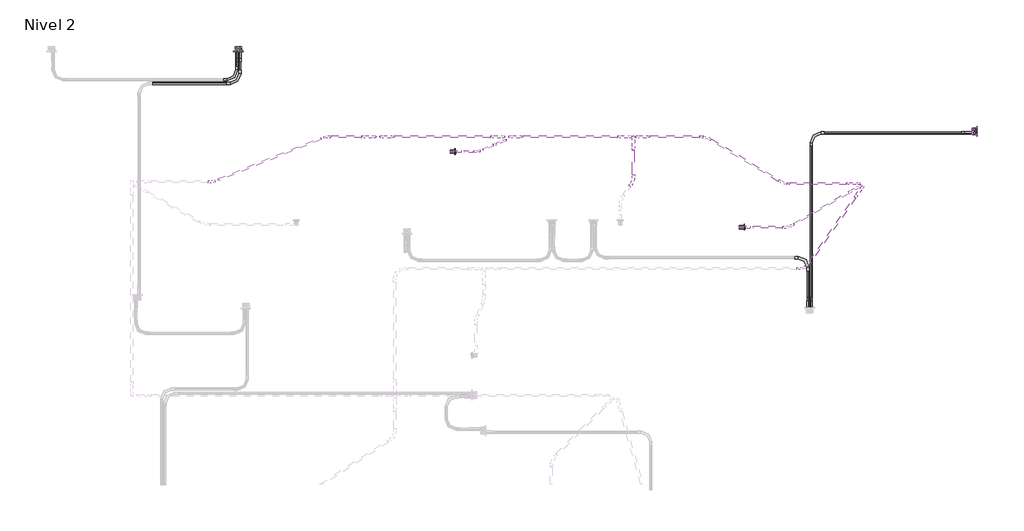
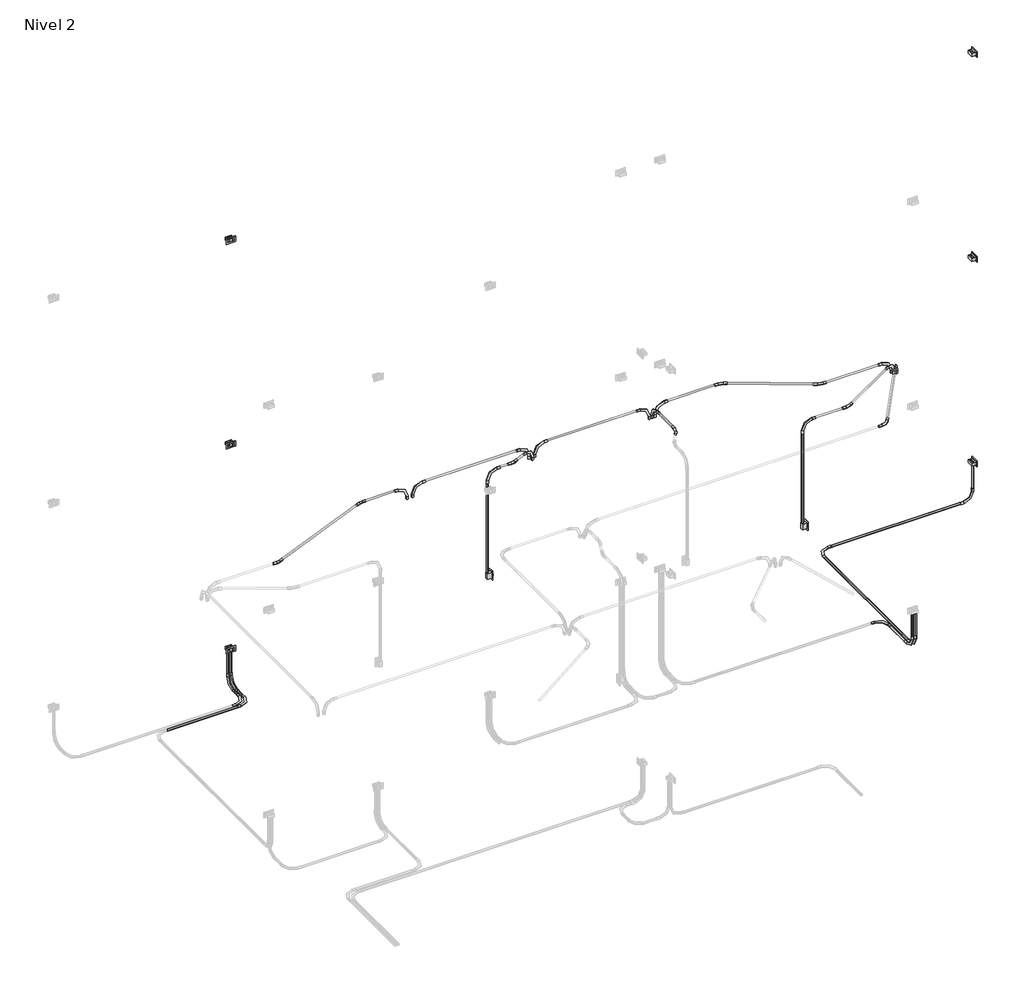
# One storey, part 10 of 10: 30 cable carrier fittings, 26 cable carrier segments, 6 proxies, 2 switching devices.
"""IFC4 building model written with IfcOpenShell, lengths in millimetres."""

from ifc_helpers import new_model, si_unit, point, frame, frame_2d, origin, place, context, project, spatial, circle_curve, trimmed, segment, composite_curve, outline, extrude, transform, mapped, element, save
from components import gfci_180f1b41, m_codo_de_tubo_extremo_liso_pvc_9da73e12, m_codo_de_tubo_extremo_liso_pvc_102f0f41, m_codo_de_tubo_extremo_liso_pvc_83c0c0e9, m_codo_de_tubo_extremo_liso_pvc_1ce4db88, m_codo_de_tubo_extremo_liso_pvc_e924b1dc, m_codo_de_tubo_extremo_liso_pvc_b7793a26, m_codo_de_tubo_extremo_liso_pvc_59586aee, m_codo_de_tubo_extremo_liso_pvc_e6ab1ad8, switching_device_22fed34b

model = new_model("IFC4")

# Units and contexts
model_context = context("Model", 3, world=origin())
ifc_project = project(units=[si_unit("LENGTHUNIT", "METRE", prefix="MILLI")], contexts=[model_context])

# Site, building, storey
site = spatial("IfcSite", under=ifc_project)
building = spatial("IfcBuilding", under=site)
storey = spatial("IfcBuildingStorey", under=building, Name="Nivel 2", Elevation=2800.0)

# Proxies
placement = place(None, origin())
gfci_shape = gfci_180f1b41(model_context)
element("IfcBuildingElementProxy", 1, Name="Tomacorriente doble 220V : GFCI", ObjectType="Tomacorriente doble 220V : GFCI", at=placement, inside=storey, context=model_context, shape_type="MappedRepresentation", body=[
    mapped(gfci_shape, transform((589.5234859, 17515.0, 3200.0), x_axis=(0.0, 0.0, 1.0), y_axis=(-1.0, 0.0, 0.0), z_axis=(0.0, -1.0, 0.0))),
])
element("IfcBuildingElementProxy", 2, Name="Tomacorriente doble 220V : GFCI", ObjectType="Tomacorriente doble 220V : GFCI", at=placement, inside=storey, context=model_context, shape_type="MappedRepresentation", body=[
    mapped(gfci_shape, transform((9150.0, 16584.596379, 3200.0), x_axis=(0.0, 0.0, 1.0), y_axis=(0.0, -1.0, 0.0), z_axis=(1.0, 0.0, 0.0))),
])
element("IfcBuildingElementProxy", 3, Name="Tomacorriente doble 220V : GFCI", ObjectType="Tomacorriente doble 220V : GFCI", at=placement, inside=storey, context=model_context, shape_type="MappedRepresentation", body=[
    mapped(gfci_shape, transform((589.5234859, 17515.0, 5850.0), x_axis=(0.0, 0.0, 1.0), y_axis=(-1.0, 0.0, 0.0), z_axis=(0.0, -1.0, 0.0))),
])
element("IfcBuildingElementProxy", 4, Name="Tomacorriente doble 220V : GFCI", ObjectType="Tomacorriente doble 220V : GFCI", at=placement, inside=storey, context=model_context, shape_type="MappedRepresentation", body=[
    mapped(gfci_shape, transform((9150.0, 16584.596379, 5850.0), x_axis=(0.0, 0.0, 1.0), y_axis=(0.0, -1.0, 0.0), z_axis=(1.0, 0.0, 0.0))),
])
element("IfcBuildingElementProxy", 5, Name="Tomacorriente doble 220V : GFCI", ObjectType="Tomacorriente doble 220V : GFCI", at=placement, inside=storey, context=model_context, shape_type="MappedRepresentation", body=[
    mapped(gfci_shape, transform((589.5234859, 17515.0, 8500.0), x_axis=(0.0, 0.0, 1.0), y_axis=(-1.0, 0.0, 0.0), z_axis=(0.0, -1.0, 0.0))),
])
element("IfcBuildingElementProxy", 6, Name="Tomacorriente doble 220V : GFCI", ObjectType="Tomacorriente doble 220V : GFCI", at=placement, inside=storey, context=model_context, shape_type="MappedRepresentation", body=[
    mapped(gfci_shape, transform((9150.0, 16584.596379, 8500.0), x_axis=(0.0, 0.0, 1.0), y_axis=(0.0, -1.0, 0.0), z_axis=(1.0, 0.0, 0.0))),
])

# Cable carrier fittings
m_codo_de_tubo_extremo_liso_pvc_shape = m_codo_de_tubo_extremo_liso_pvc_9da73e12(model_context)
element("IfcCableCarrierFitting", 7, ObjectType="M_Codo de tubo - Extremo liso - PVC : CODO POTENCIA", at=placement, inside=storey, context=model_context, shape_type="MappedRepresentation", body=[
    mapped(m_codo_de_tubo_extremo_liso_pvc_shape, transform((571.491666, 17544.6371118, 2730.0), x_axis=(0.0, 0.0, -1.0), y_axis=(0.0, -1.0, 0.0), z_axis=(-1.0, 0.0, 0.0))),
])
element("IfcCableCarrierFitting", 8, ObjectType="M_Codo de tubo - Extremo liso - PVC : CODO POTENCIA", at=placement, inside=storey, context=model_context, shape_type="MappedRepresentation", body=[
    mapped(m_codo_de_tubo_extremo_liso_pvc_shape, transform((607.5553057, 17544.6371118, 2730.0), x_axis=(0.0, 0.0, -1.0), y_axis=(0.0, -1.0, 0.0), z_axis=(-1.0, 0.0, 0.0))),
])
element("IfcCableCarrierFitting", 9, ObjectType="M_Codo de tubo - Extremo liso - PVC : CODO POTENCIA", at=placement, inside=storey, context=model_context, shape_type="MappedRepresentation", body=[
    mapped(m_codo_de_tubo_extremo_liso_pvc_shape, transform((9120.3628882, 16566.5645592, 2730.0), x_axis=(0.0, 0.0, -1.0), y_axis=(-1.0, 0.0, 0.0), z_axis=(0.0, 1.0, 0.0))),
])
element("IfcCableCarrierFitting", 10, ObjectType="M_Codo de tubo - Extremo liso - PVC : CODO POTENCIA", at=placement, inside=storey, context=model_context, shape_type="MappedRepresentation", body=[
    mapped(m_codo_de_tubo_extremo_liso_pvc_shape, transform((7193.2733803, 14505.3628882, 2730.0), x_axis=(0.0, 0.0, -1.0), y_axis=(0.0, 1.0, 0.0), z_axis=(1.0, 0.0, 0.0))),
])
element("IfcCableCarrierFitting", 11, ObjectType="M_Codo de tubo - Extremo liso - PVC : CODO POTENCIA", at=placement, inside=storey, context=model_context, shape_type="MappedRepresentation", body=[
    mapped(m_codo_de_tubo_extremo_liso_pvc_shape, transform((7229.33702, 16566.5645592, 2730.0), x_axis=(-1.0, 0.0, 0.0), y_axis=(0.0, -1.0, 0.0), z_axis=(0.0, 0.0, 1.0))),
])
element("IfcCableCarrierFitting", 12, ObjectType="M_Codo de tubo - Extremo liso - PVC : CODO POTENCIA", at=placement, inside=storey, context=model_context, shape_type="MappedRepresentation", body=[
    mapped(m_codo_de_tubo_extremo_liso_pvc_shape, transform((7229.33702, 14505.3628882, 2730.0), x_axis=(0.0, 0.0, -1.0), y_axis=(0.0, 1.0, 0.0), z_axis=(1.0, 0.0, 0.0))),
])
element("IfcCableCarrierFitting", 13, ObjectType="M_Codo de tubo - Extremo liso - PVC : CODO POTENCIA", at=placement, inside=storey, context=model_context, shape_type="MappedRepresentation", body=[
    mapped(m_codo_de_tubo_extremo_liso_pvc_shape, transform((7193.2733803, 15120.3628882, 2730.0), x_axis=(0.0, 1.0, 0.0), y_axis=(-1.0, 0.0, 0.0), z_axis=(0.0, 0.0, 1.0))),
])
element("IfcCableCarrierFitting", 14, ObjectType="M_Codo de tubo - Extremo liso - PVC : CODO POTENCIA", at=placement, inside=storey, context=model_context, shape_type="MappedRepresentation", body=[
    mapped(m_codo_de_tubo_extremo_liso_pvc_shape, transform((607.5553057, 17141.7513363, 2730.0), x_axis=(1.0, 0.0, 0.0), y_axis=(0.0, 1.0, 0.0), z_axis=(0.0, 0.0, 1.0))),
])
element("IfcCableCarrierFitting", 15, ObjectType="M_Codo de tubo - Extremo liso - PVC : CODO POTENCIA", at=placement, inside=storey, context=model_context, shape_type="MappedRepresentation", body=[
    mapped(m_codo_de_tubo_extremo_liso_pvc_shape, transform((571.491666, 17184.6371118, 2730.0), x_axis=(1.0, 0.0, 0.0), y_axis=(0.0, 1.0, 0.0), z_axis=(0.0, 0.0, 1.0))),
])
element("IfcCableCarrierFitting", 16, ObjectType="M_Codo de tubo - Extremo liso - PVC : CODO ILUMINACION", at=placement, inside=storey, context=model_context, shape_type="MappedRepresentation", body=[
    mapped(m_codo_de_tubo_extremo_liso_pvc_shape, transform((2241.7948591, 16522.4684793, 5350.0), x_axis=(-1.0, 0.0, 0.0), y_axis=(0.0, 0.0, -1.0), z_axis=(0.0, -1.0, 0.0))),
])
element("IfcCableCarrierFitting", 17, ObjectType="M_Codo de tubo - Extremo liso - PVC : CODO ILUMINACION", at=placement, inside=storey, context=model_context, shape_type="MappedRepresentation", body=[
    mapped(m_codo_de_tubo_extremo_liso_pvc_shape, transform((3734.0151305, 16522.4684793, 5350.0), x_axis=(-1.0, 0.0, 0.0), y_axis=(0.0, 0.0, -1.0), z_axis=(0.0, -1.0, 0.0))),
])
element("IfcCableCarrierFitting", 18, ObjectType="M_Codo de tubo - Extremo liso - PVC : CODO ILUMINACION", at=placement, inside=storey, context=model_context, shape_type="MappedRepresentation", body=[
    mapped(m_codo_de_tubo_extremo_liso_pvc_shape, transform((5204.7397254, 16522.4684793, 5350.0), x_axis=(-1.0, 0.0, 0.0), y_axis=(0.0, 0.0, -1.0), z_axis=(0.0, -1.0, 0.0))),
])
element("IfcCableCarrierFitting", 19, ObjectType="M_Codo de tubo - Extremo liso - PVC : CODO ILUMINACION", at=placement, inside=storey, context=model_context, shape_type="MappedRepresentation", body=[
    mapped(m_codo_de_tubo_extremo_liso_pvc_shape, transform((3056.7668084, 16349.9044993, 5350.0), x_axis=(0.0, 0.0, 1.0), y_axis=(1.0, 0.0, 0.0), z_axis=(0.0, 1.0, 0.0))),
])
element("IfcCableCarrierFitting", 20, ObjectType="M_Codo de tubo - Extremo liso - PVC : CODO ILUMINACION", at=placement, inside=storey, context=model_context, shape_type="MappedRepresentation", body=[
    mapped(m_codo_de_tubo_extremo_liso_pvc_shape, transform((6406.8611243, 15473.3236049, 5350.0), x_axis=(0.0, 0.0, 1.0), y_axis=(1.0, 0.0, 0.0), z_axis=(0.0, 1.0, 0.0))),
])
m_codo_de_tubo_extremo_liso_pvc_2_shape = m_codo_de_tubo_extremo_liso_pvc_102f0f41(model_context)
element("IfcCableCarrierFitting", 21, ObjectType="M_Codo de tubo - Extremo liso - PVC : CODO ILUMINACION", at=placement, inside=storey, context=model_context, shape_type="MappedRepresentation", body=[
    mapped(m_codo_de_tubo_extremo_liso_pvc_2_shape, transform((2173.7645981, 16522.4684793, 5350.0), x_axis=(1.0, 0.0, 0.0), y_axis=(0.0, 0.0, 1.0), z_axis=(0.0, -1.0, 0.0))),
])
element("IfcCableCarrierFitting", 22, ObjectType="M_Codo de tubo - Extremo liso - PVC : CODO ILUMINACION", at=placement, inside=storey, context=model_context, shape_type="MappedRepresentation", body=[
    mapped(m_codo_de_tubo_extremo_liso_pvc_2_shape, transform((3665.9848695, 16522.4684793, 5350.0), x_axis=(1.0, 0.0, 0.0), y_axis=(0.0, 0.0, 1.0), z_axis=(0.0, -1.0, 0.0))),
])
element("IfcCableCarrierFitting", 23, ObjectType="M_Codo de tubo - Extremo liso - PVC : CODO ILUMINACION", at=placement, inside=storey, context=model_context, shape_type="MappedRepresentation", body=[
    mapped(m_codo_de_tubo_extremo_liso_pvc_2_shape, transform((5136.7094645, 16522.4684793, 5350.0), x_axis=(1.0, 0.0, 0.0), y_axis=(0.0, 0.0, 1.0), z_axis=(0.0, -1.0, 0.0))),
])
element("IfcCableCarrierFitting", 24, ObjectType="M_Codo de tubo - Extremo liso - PVC : CODO ILUMINACION", at=placement, inside=storey, context=model_context, shape_type="MappedRepresentation", body=[
    mapped(m_codo_de_tubo_extremo_liso_pvc_2_shape, transform((7823.8636227, 15941.494093, 5350.0), x_axis=(0.5735764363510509, 0.8191520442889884, 0.0), y_axis=(0.0, 0.0, 1.0), z_axis=(0.8191520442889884, -0.5735764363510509, 0.0))),
])
element("IfcCableCarrierFitting", 25, ObjectType="M_Codo de tubo - Extremo liso - PVC : CODO ILUMINACION", at=placement, inside=storey, context=model_context, shape_type="MappedRepresentation", body=[
    mapped(m_codo_de_tubo_extremo_liso_pvc_2_shape, transform((7785.0139117, 15979.0288692, 5350.0), x_axis=(1.0, 0.0, 0.0), y_axis=(0.0, 0.0, 1.0), z_axis=(0.0, -1.0, 0.0))),
])
element("IfcCableCarrierFitting", 26, ObjectType="M_Codo de tubo - Extremo liso - PVC : CODO ILUMINACION", at=placement, inside=storey, context=model_context, shape_type="MappedRepresentation", body=[
    mapped(m_codo_de_tubo_extremo_liso_pvc_2_shape, transform((3684.8643971, 16483.326512, 5350.0), x_axis=(0.9205048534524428, 0.3907311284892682, 0.0), y_axis=(0.0, 0.0, 1.0000000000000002), z_axis=(0.3907311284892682, -0.9205048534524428, 0.0))),
])
element("IfcCableCarrierFitting", 27, ObjectType="M_Codo de tubo - Extremo liso - PVC : CODO ILUMINACION", at=placement, inside=storey, context=model_context, shape_type="MappedRepresentation", body=[
    mapped(m_codo_de_tubo_extremo_liso_pvc_2_shape, transform((5168.2792063, 16521.8599625, 5350.0), x_axis=(0.0, 1.0, 0.0), y_axis=(0.0, 0.0, 1.0), z_axis=(1.0, 0.0, 0.0))),
])
element("IfcCableCarrierFitting", 28, ObjectType="M_Codo de tubo - Extremo liso - PVC : CODO ILUMINACION", at=placement, inside=storey, context=model_context, shape_type="MappedRepresentation", body=[
    mapped(m_codo_de_tubo_extremo_liso_pvc_2_shape, transform((7797.1522648, 15952.0796933, 5350.0), x_axis=(0.8660254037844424, 0.4999999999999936, 0.0), y_axis=(0.0, 0.0, 1.0), z_axis=(0.4999999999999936, -0.8660254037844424, 0.0))),
])
m_codo_de_tubo_extremo_liso_pvc_3_shape = m_codo_de_tubo_extremo_liso_pvc_83c0c0e9(model_context)
element("IfcCableCarrierFitting", 29, ObjectType="M_Codo de tubo - Extremo liso - PVC : CODO ILUMINACION", at=placement, inside=storey, context=model_context, shape_type="MappedRepresentation", body=[
    mapped(m_codo_de_tubo_extremo_liso_pvc_3_shape, transform((297.9663114, 16001.2965089, 5350.0), x_axis=(1.0, 0.0, 0.0), y_axis=(0.0, 1.0, 0.0), z_axis=(0.0, 0.0, 1.0))),
])
element("IfcCableCarrierFitting", 30, ObjectType="M_Codo de tubo - Extremo liso - PVC : CODO ILUMINACION", at=placement, inside=storey, context=model_context, shape_type="MappedRepresentation", body=[
    mapped(m_codo_de_tubo_extremo_liso_pvc_3_shape, transform((1601.3645981, 16522.4684793, 5350.0), x_axis=(-1.0, 0.0, 0.0), y_axis=(0.0, -1.0, 0.0), z_axis=(0.0, 0.0, 1.0))),
])
m_codo_de_tubo_extremo_liso_pvc_4_shape = m_codo_de_tubo_extremo_liso_pvc_1ce4db88(model_context)
element("IfcCableCarrierFitting", 31, ObjectType="M_Codo de tubo - Extremo liso - PVC : CODO ILUMINACION", at=placement, inside=storey, context=model_context, shape_type="MappedRepresentation", body=[
    mapped(m_codo_de_tubo_extremo_liso_pvc_4_shape, transform((6008.1785187, 16522.4684793, 5350.0), x_axis=(-0.8571673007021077, 0.5150380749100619, 0.0), y_axis=(-0.5150380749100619, -0.8571673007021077, 0.0), z_axis=(0.0, 0.0, 1.0))),
])
element("IfcCableCarrierFitting", 32, ObjectType="M_Codo de tubo - Extremo liso - PVC : CODO ILUMINACION", at=placement, inside=storey, context=model_context, shape_type="MappedRepresentation", body=[
    mapped(m_codo_de_tubo_extremo_liso_pvc_4_shape, transform((6912.6139117, 15979.0288692, 5350.0), x_axis=(0.8571673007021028, -0.51503807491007, 0.0), y_axis=(0.51503807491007, 0.8571673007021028, 0.0), z_axis=(0.0, 0.0, 1.0))),
])
m_codo_de_tubo_extremo_liso_pvc_5_shape = m_codo_de_tubo_extremo_liso_pvc_e924b1dc(model_context)
element("IfcCableCarrierFitting", 33, ObjectType="M_Codo de tubo - Extremo liso - PVC : CODO ILUMINACION", at=placement, inside=storey, context=model_context, shape_type="MappedRepresentation", body=[
    mapped(m_codo_de_tubo_extremo_liso_pvc_5_shape, transform((7159.7702922, 14993.0705266, 5350.0), x_axis=(1.0, 0.0, 0.0), y_axis=(0.0, 1.0, 0.0), z_axis=(0.0, 0.0, 1.0))),
])
m_codo_de_tubo_extremo_liso_pvc_6_shape = m_codo_de_tubo_extremo_liso_pvc_b7793a26(model_context)
element("IfcCableCarrierFitting", 34, ObjectType="M_Codo de tubo - Extremo liso - PVC : CODO ILUMINACION", at=placement, inside=storey, context=model_context, shape_type="MappedRepresentation", body=[
    mapped(m_codo_de_tubo_extremo_liso_pvc_6_shape, transform((3370.5418327, 16349.9044993, 5350.0), x_axis=(1.0, 0.0, 0.0), y_axis=(0.0, 1.0, 0.0), z_axis=(0.0, 0.0, 1.0))),
])
m_codo_de_tubo_extremo_liso_pvc_7_shape = m_codo_de_tubo_extremo_liso_pvc_59586aee(model_context)
element("IfcCableCarrierFitting", 35, ObjectType="M_Codo de tubo - Extremo liso - PVC : CODO ILUMINACION", at=placement, inside=storey, context=model_context, shape_type="MappedRepresentation", body=[
    mapped(m_codo_de_tubo_extremo_liso_pvc_7_shape, transform((5168.2792063, 16009.4599625, 5350.0), x_axis=(0.5679095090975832, 0.823090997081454, 0.0), y_axis=(-0.823090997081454, 0.5679095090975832, 0.0), z_axis=(0.0, 0.0, 1.0))),
])
m_codo_de_tubo_extremo_liso_pvc_8_shape = m_codo_de_tubo_extremo_liso_pvc_e6ab1ad8(model_context)
element("IfcCableCarrierFitting", 36, ObjectType="M_Codo de tubo - Extremo liso - PVC : CODO ILUMINACION", at=placement, inside=storey, context=model_context, shape_type="MappedRepresentation", body=[
    mapped(m_codo_de_tubo_extremo_liso_pvc_8_shape, transform((6967.9223952, 15473.3236049, 5350.0), x_axis=(1.0, 0.0, 0.0), y_axis=(0.0, 1.0, 0.0), z_axis=(0.0, 0.0, 1.0))),
])

# Cable carrier segments
element("IfcCableCarrierSegment", 37, ObjectType="PVC-SEL, POTENCIA", at=placement, inside=storey, context=model_context, shape_type="SweptSolid", body=[
    extrude(outline(composite_curve([segment(trimmed(circle_curve(frame_2d((2730.0, 571.491666)), 11.71), [point((2730.0, 559.781666))], [point((2718.29, 571.491666))], False, "CARTESIAN"), True, "CONTINUOUS"), segment(trimmed(circle_curve(frame_2d((2730.0, 571.491666)), 11.71), [point((2718.29, 571.491666))], [point((2730.0, 583.201666))], False, "CARTESIAN"), True, "CONTINUOUS"), segment(trimmed(circle_curve(frame_2d((2730.0, 571.491666)), 11.71), [point((2730.0, 583.201666))], [point((2741.71, 571.491666))], False, "CARTESIAN"), True, "CONTINUOUS"), segment(trimmed(circle_curve(frame_2d((2730.0, 571.491666)), 11.71), [point((2741.71, 571.491666))], [point((2730.0, 559.781666))], False, "CARTESIAN"), True, "CONTINUOUS")], self_intersect=False)), frame((0.0, 17337.0371118, 0.0), z_axis=(0.0, 1.0, 0.0), x_axis=(0.0, 0.0, 1.0)), (0.0, 0.0, 1.0), 55.2),
])
element("IfcCableCarrierSegment", 38, ObjectType="PVC-SEL, POTENCIA", at=placement, inside=storey, context=model_context, shape_type="SweptSolid", body=[
    extrude(outline(composite_curve([segment(trimmed(circle_curve(frame_2d((571.491666, 17544.6371118)), 11.71), [point((583.201666, 17544.6371118))], [point((571.491666, 17532.9271118))], False, "CARTESIAN"), True, "CONTINUOUS"), segment(trimmed(circle_curve(frame_2d((571.491666, 17544.6371118)), 11.71), [point((571.491666, 17532.9271118))], [point((559.781666, 17544.6371118))], False, "CARTESIAN"), True, "CONTINUOUS"), segment(trimmed(circle_curve(frame_2d((571.491666, 17544.6371118)), 11.71), [point((559.781666, 17544.6371118))], [point((571.491666, 17556.3471118))], False, "CARTESIAN"), True, "CONTINUOUS"), segment(trimmed(circle_curve(frame_2d((571.491666, 17544.6371118)), 11.71), [point((571.491666, 17556.3471118))], [point((583.201666, 17544.6371118))], False, "CARTESIAN"), True, "CONTINUOUS")], self_intersect=False)), frame((0.0, 0.0, 2882.4), z_axis=(0.0, 0.0, 1.0), x_axis=(1.0, 0.0, 0.0)), (0.0, 0.0, 1.0), 297.3020537),
])
element("IfcCableCarrierSegment", 39, ObjectType="PVC-SEL, POTENCIA", at=placement, inside=storey, context=model_context, shape_type="SweptSolid", body=[
    extrude(outline(composite_curve([segment(trimmed(circle_curve(frame_2d((2730.0, 607.5553057)), 11.71), [point((2730.0, 595.8453057))], [point((2718.29, 607.5553057))], False, "CARTESIAN"), True, "CONTINUOUS"), segment(trimmed(circle_curve(frame_2d((2730.0, 607.5553057)), 11.71), [point((2718.29, 607.5553057))], [point((2730.0, 619.2653057))], False, "CARTESIAN"), True, "CONTINUOUS"), segment(trimmed(circle_curve(frame_2d((2730.0, 607.5553057)), 11.71), [point((2730.0, 619.2653057))], [point((2741.71, 607.5553057))], False, "CARTESIAN"), True, "CONTINUOUS"), segment(trimmed(circle_curve(frame_2d((2730.0, 607.5553057)), 11.71), [point((2741.71, 607.5553057))], [point((2730.0, 595.8453057))], False, "CARTESIAN"), True, "CONTINUOUS")], self_intersect=False)), frame((0.0, 17294.1513363, 0.0), z_axis=(0.0, 1.0, 0.0), x_axis=(0.0, 0.0, 1.0)), (0.0, 0.0, 1.0), 98.0857755),
])
element("IfcCableCarrierSegment", 40, ObjectType="PVC-SEL, POTENCIA", at=placement, inside=storey, context=model_context, shape_type="SweptSolid", body=[
    extrude(outline(composite_curve([segment(trimmed(circle_curve(frame_2d((607.5553057, 17544.6371118)), 11.71), [point((619.2653057, 17544.6371118))], [point((607.5553057, 17532.9271118))], False, "CARTESIAN"), True, "CONTINUOUS"), segment(trimmed(circle_curve(frame_2d((607.5553057, 17544.6371118)), 11.71), [point((607.5553057, 17532.9271118))], [point((595.8453057, 17544.6371118))], False, "CARTESIAN"), True, "CONTINUOUS"), segment(trimmed(circle_curve(frame_2d((607.5553057, 17544.6371118)), 11.71), [point((595.8453057, 17544.6371118))], [point((607.5553057, 17556.3471118))], False, "CARTESIAN"), True, "CONTINUOUS"), segment(trimmed(circle_curve(frame_2d((607.5553057, 17544.6371118)), 11.71), [point((607.5553057, 17556.3471118))], [point((619.2653057, 17544.6371118))], False, "CARTESIAN"), True, "CONTINUOUS")], self_intersect=False)), frame((0.0, 0.0, 2882.4), z_axis=(0.0, 0.0, 1.0), x_axis=(1.0, 0.0, 0.0)), (0.0, 0.0, 1.0), 297.3020537),
])
element("IfcCableCarrierSegment", 41, ObjectType="PVC-SEL, POTENCIA", at=placement, inside=storey, context=model_context, shape_type="SweptSolid", body=[
    extrude(outline(composite_curve([segment(trimmed(circle_curve(frame_2d((16566.5645592, 2730.0)), 11.71), [point((16578.2745592, 2730.0))], [point((16566.5645592, 2718.29))], False, "CARTESIAN"), True, "CONTINUOUS"), segment(trimmed(circle_curve(frame_2d((16566.5645592, 2730.0)), 11.71), [point((16566.5645592, 2718.29))], [point((16554.8545592, 2730.0))], False, "CARTESIAN"), True, "CONTINUOUS"), segment(trimmed(circle_curve(frame_2d((16566.5645592, 2730.0)), 11.71), [point((16554.8545592, 2730.0))], [point((16566.5645592, 2741.71))], False, "CARTESIAN"), True, "CONTINUOUS"), segment(trimmed(circle_curve(frame_2d((16566.5645592, 2730.0)), 11.71), [point((16566.5645592, 2741.71))], [point((16578.2745592, 2730.0))], False, "CARTESIAN"), True, "CONTINUOUS")], self_intersect=False)), frame((7381.73702, 0.0, 0.0), z_axis=(1.0, 0.0, 0.0), x_axis=(0.0, 1.0, 0.0)), (0.0, 0.0, 1.0), 1586.2258683),
])
element("IfcCableCarrierSegment", 42, ObjectType="PVC-SEL, POTENCIA", at=placement, inside=storey, context=model_context, shape_type="SweptSolid", body=[
    extrude(outline(composite_curve([segment(trimmed(circle_curve(frame_2d((9120.3628882, 16566.5645592)), 11.71), [point((9132.0728882, 16566.5645592))], [point((9120.3628882, 16554.8545592))], False, "CARTESIAN"), True, "CONTINUOUS"), segment(trimmed(circle_curve(frame_2d((9120.3628882, 16566.5645592)), 11.71), [point((9120.3628882, 16554.8545592))], [point((9108.6528882, 16566.5645592))], False, "CARTESIAN"), True, "CONTINUOUS"), segment(trimmed(circle_curve(frame_2d((9120.3628882, 16566.5645592)), 11.71), [point((9108.6528882, 16566.5645592))], [point((9120.3628882, 16578.2745592))], False, "CARTESIAN"), True, "CONTINUOUS"), segment(trimmed(circle_curve(frame_2d((9120.3628882, 16566.5645592)), 11.71), [point((9120.3628882, 16578.2745592))], [point((9132.0728882, 16566.5645592))], False, "CARTESIAN"), True, "CONTINUOUS")], self_intersect=False)), frame((0.0, 0.0, 2882.4), z_axis=(0.0, 0.0, 1.0), x_axis=(1.0, 0.0, 0.0)), (0.0, 0.0, 1.0), 297.3020537),
])
element("IfcCableCarrierSegment", 43, ObjectType="PVC-SEL, POTENCIA", at=placement, inside=storey, context=model_context, shape_type="SweptSolid", body=[
    extrude(outline(composite_curve([segment(trimmed(circle_curve(frame_2d((2730.0, 7193.2733803)), 11.71), [point((2730.0, 7204.9833803))], [point((2741.71, 7193.2733803))], False, "CARTESIAN"), True, "CONTINUOUS"), segment(trimmed(circle_curve(frame_2d((2730.0, 7193.2733803)), 11.71), [point((2741.71, 7193.2733803))], [point((2730.0, 7181.5633803))], False, "CARTESIAN"), True, "CONTINUOUS"), segment(trimmed(circle_curve(frame_2d((2730.0, 7193.2733803)), 11.71), [point((2730.0, 7181.5633803))], [point((2718.29, 7193.2733803))], False, "CARTESIAN"), True, "CONTINUOUS"), segment(trimmed(circle_curve(frame_2d((2730.0, 7193.2733803)), 11.71), [point((2718.29, 7193.2733803))], [point((2730.0, 7204.9833803))], False, "CARTESIAN"), True, "CONTINUOUS")], self_intersect=False)), frame((0.0, 14657.7628882, 0.0), z_axis=(0.0, 1.0, 0.0), x_axis=(0.0, 0.0, 1.0)), (0.0, 0.0, 1.0), 310.2),
])
element("IfcCableCarrierSegment", 44, ObjectType="PVC-SEL, POTENCIA", at=placement, inside=storey, context=model_context, shape_type="SweptSolid", body=[
    extrude(outline(composite_curve([segment(trimmed(circle_curve(frame_2d((7193.2733803, 14505.3628882)), 11.71), [point((7204.9833803, 14505.3628882))], [point((7193.2733803, 14493.6528882))], False, "CARTESIAN"), True, "CONTINUOUS"), segment(trimmed(circle_curve(frame_2d((7193.2733803, 14505.3628882)), 11.71), [point((7193.2733803, 14493.6528882))], [point((7181.5633803, 14505.3628882))], False, "CARTESIAN"), True, "CONTINUOUS"), segment(trimmed(circle_curve(frame_2d((7193.2733803, 14505.3628882)), 11.71), [point((7181.5633803, 14505.3628882))], [point((7193.2733803, 14517.0728882))], False, "CARTESIAN"), True, "CONTINUOUS"), segment(trimmed(circle_curve(frame_2d((7193.2733803, 14505.3628882)), 11.71), [point((7193.2733803, 14517.0728882))], [point((7204.9833803, 14505.3628882))], False, "CARTESIAN"), True, "CONTINUOUS")], self_intersect=False)), frame((0.0, 0.0, 2882.4), z_axis=(0.0, 0.0, 1.0), x_axis=(1.0, 0.0, 0.0)), (0.0, 0.0, 1.0), 297.3020537),
])
element("IfcCableCarrierSegment", 45, ObjectType="PVC-SEL, POTENCIA", at=placement, inside=storey, context=model_context, shape_type="SweptSolid", body=[
    extrude(outline(composite_curve([segment(trimmed(circle_curve(frame_2d((2730.0, 7229.33702)), 11.71), [point((2730.0, 7217.62702))], [point((2718.29, 7229.33702))], False, "CARTESIAN"), True, "CONTINUOUS"), segment(trimmed(circle_curve(frame_2d((2730.0, 7229.33702)), 11.71), [point((2718.29, 7229.33702))], [point((2730.0, 7241.04702))], False, "CARTESIAN"), True, "CONTINUOUS"), segment(trimmed(circle_curve(frame_2d((2730.0, 7229.33702)), 11.71), [point((2730.0, 7241.04702))], [point((2741.71, 7229.33702))], False, "CARTESIAN"), True, "CONTINUOUS"), segment(trimmed(circle_curve(frame_2d((2730.0, 7229.33702)), 11.71), [point((2741.71, 7229.33702))], [point((2730.0, 7217.62702))], False, "CARTESIAN"), True, "CONTINUOUS")], self_intersect=False)), frame((0.0, 14657.7628882, 0.0), z_axis=(0.0, 1.0, 0.0), x_axis=(0.0, 0.0, 1.0)), (0.0, 0.0, 1.0), 1756.401671),
])
element("IfcCableCarrierSegment", 46, ObjectType="PVC-SEL, POTENCIA", at=placement, inside=storey, context=model_context, shape_type="SweptSolid", body=[
    extrude(outline(composite_curve([segment(trimmed(circle_curve(frame_2d((7229.33702, 14505.3628882)), 11.71), [point((7241.04702, 14505.3628882))], [point((7229.33702, 14493.6528882))], False, "CARTESIAN"), True, "CONTINUOUS"), segment(trimmed(circle_curve(frame_2d((7229.33702, 14505.3628882)), 11.71), [point((7229.33702, 14493.6528882))], [point((7217.62702, 14505.3628882))], False, "CARTESIAN"), True, "CONTINUOUS"), segment(trimmed(circle_curve(frame_2d((7229.33702, 14505.3628882)), 11.71), [point((7217.62702, 14505.3628882))], [point((7229.33702, 14517.0728882))], False, "CARTESIAN"), True, "CONTINUOUS"), segment(trimmed(circle_curve(frame_2d((7229.33702, 14505.3628882)), 11.71), [point((7229.33702, 14517.0728882))], [point((7241.04702, 14505.3628882))], False, "CARTESIAN"), True, "CONTINUOUS")], self_intersect=False)), frame((0.0, 0.0, 2882.4), z_axis=(0.0, 0.0, 1.0), x_axis=(1.0, 0.0, 0.0)), (0.0, 0.0, 1.0), 297.3020537),
])
element("IfcCableCarrierSegment", 47, ObjectType="PVC-SEL, POTENCIA", at=placement, inside=storey, context=model_context, shape_type="SweptSolid", body=[
    extrude(outline(composite_curve([segment(trimmed(circle_curve(frame_2d((17141.7513363, 2730.0)), 11.71), [point((17153.4613363, 2730.0))], [point((17141.7513363, 2718.29))], False, "CARTESIAN"), True, "CONTINUOUS"), segment(trimmed(circle_curve(frame_2d((17141.7513363, 2730.0)), 11.71), [point((17141.7513363, 2718.29))], [point((17130.0413363, 2730.0))], False, "CARTESIAN"), True, "CONTINUOUS"), segment(trimmed(circle_curve(frame_2d((17141.7513363, 2730.0)), 11.71), [point((17130.0413363, 2730.0))], [point((17141.7513363, 2741.71))], False, "CARTESIAN"), True, "CONTINUOUS"), segment(trimmed(circle_curve(frame_2d((17141.7513363, 2730.0)), 11.71), [point((17141.7513363, 2741.71))], [point((17153.4613363, 2730.0))], False, "CARTESIAN"), True, "CONTINUOUS")], self_intersect=False)), frame((-409.6660348, 0.0, 0.0), z_axis=(1.0, 0.0, 0.0), x_axis=(0.0, 1.0, 0.0)), (0.0, 0.0, 1.0), 864.8213404),
])
element("IfcCableCarrierSegment", 48, ObjectType="PVC-SEL ILUMINACION", at=placement, inside=storey, context=model_context, shape_type="SweptSolid", body=[
    extrude(outline(composite_curve([segment(trimmed(circle_curve(frame_2d((16522.4684793, 5350.0)), 11.71), [point((16534.1784793, 5350.0))], [point((16522.4684793, 5338.29))], False, "CARTESIAN"), True, "CONTINUOUS"), segment(trimmed(circle_curve(frame_2d((16522.4684793, 5350.0)), 11.71), [point((16522.4684793, 5338.29))], [point((16510.7584793, 5350.0))], False, "CARTESIAN"), True, "CONTINUOUS"), segment(trimmed(circle_curve(frame_2d((16522.4684793, 5350.0)), 11.71), [point((16510.7584793, 5350.0))], [point((16522.4684793, 5361.71))], False, "CARTESIAN"), True, "CONTINUOUS"), segment(trimmed(circle_curve(frame_2d((16522.4684793, 5350.0)), 11.71), [point((16522.4684793, 5361.71))], [point((16534.1784793, 5350.0))], False, "CARTESIAN"), True, "CONTINUOUS")], self_intersect=False)), frame((1661.4694225, 0.0, 0.0), z_axis=(1.0, 0.0, 0.0), x_axis=(0.0, 1.0, 0.0)), (0.0, 0.0, 1.0), 359.8951756),
])
element("IfcCableCarrierSegment", 49, ObjectType="PVC-SEL ILUMINACION", at=placement, inside=storey, context=model_context, shape_type="SweptSolid", body=[
    extrude(outline(composite_curve([segment(trimmed(circle_curve(frame_2d((0.0, 11.71)), 11.71), [point((11.71, 11.71))], [point((0.0, 0.0))], False, "CARTESIAN"), True, "CONTINUOUS"), segment(trimmed(circle_curve(frame_2d((0.0, 11.71)), 11.71), [point((0.0, 0.0))], [point((-11.71, 11.71))], False, "CARTESIAN"), True, "CONTINUOUS"), segment(trimmed(circle_curve(frame_2d((0.0, 11.71)), 11.71), [point((-11.71, 11.71))], [point((0.0, 23.42))], False, "CARTESIAN"), True, "CONTINUOUS"), segment(trimmed(circle_curve(frame_2d((0.0, 11.71)), 11.71), [point((0.0, 23.42))], [point((11.71, 11.71))], False, "CARTESIAN"), True, "CONTINUOUS")], self_intersect=False)), frame((353.7750055, 16023.6119649, 5361.71), z_axis=(0.9285227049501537, 0.37127562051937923, 0.0), x_axis=(0.37127562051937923, -0.9285227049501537, 0.0)), (0.0, 0.0, 1.0), 1283.5237008),
])
element("IfcCableCarrierSegment", 50, ObjectType="PVC-SEL ILUMINACION", at=placement, inside=storey, context=model_context, shape_type="SweptSolid", body=[
    extrude(outline(composite_curve([segment(trimmed(circle_curve(frame_2d((0.0, 11.71)), 11.71), [point((11.7099999, 11.71))], [point((0.0, 0.0))], False, "CARTESIAN"), True, "CONTINUOUS"), segment(trimmed(circle_curve(frame_2d((0.0, 11.71)), 11.71), [point((0.0, 0.0))], [point((-11.7100001, 11.71))], False, "CARTESIAN"), True, "CONTINUOUS"), segment(trimmed(circle_curve(frame_2d((0.0, 11.71)), 11.71), [point((-11.7100001, 11.71))], [point((0.0, 23.42))], False, "CARTESIAN"), True, "CONTINUOUS"), segment(trimmed(circle_curve(frame_2d((0.0, 11.71)), 11.71), [point((0.0, 23.42))], [point((11.7099999, 11.71))], False, "CARTESIAN"), True, "CONTINUOUS")], self_intersect=False)), frame((7215.7518192, 15073.0204328, 5361.71), z_axis=(0.5735764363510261, 0.8191520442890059, 0.0), x_axis=(0.8191520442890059, -0.5735764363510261, 0.0)), (0.0, 0.0, 1.0), 907.8105753),
])
element("IfcCableCarrierSegment", 51, ObjectType="PVC-SEL ILUMINACION", at=placement, inside=storey, context=model_context, shape_type="SweptSolid", body=[
    extrude(outline(composite_curve([segment(trimmed(circle_curve(frame_2d((15979.0288692, 5350.0)), 11.71), [point((15990.7388692, 5350.0))], [point((15979.0288692, 5338.29))], False, "CARTESIAN"), True, "CONTINUOUS"), segment(trimmed(circle_curve(frame_2d((15979.0288692, 5350.0)), 11.71), [point((15979.0288692, 5338.29))], [point((15967.3188692, 5350.0))], False, "CARTESIAN"), True, "CONTINUOUS"), segment(trimmed(circle_curve(frame_2d((15979.0288692, 5350.0)), 11.71), [point((15967.3188692, 5350.0))], [point((15979.0288692, 5361.71))], False, "CARTESIAN"), True, "CONTINUOUS"), segment(trimmed(circle_curve(frame_2d((15979.0288692, 5350.0)), 11.71), [point((15979.0288692, 5361.71))], [point((15990.7388692, 5350.0))], False, "CARTESIAN"), True, "CONTINUOUS")], self_intersect=False)), frame((6982.4121071, 0.0, 0.0), z_axis=(1.0, 0.0, 0.0), x_axis=(0.0, 1.0, 0.0)), (0.0, 0.0, 1.0), 650.2018046),
])
element("IfcCableCarrierSegment", 52, ObjectType="PVC-SEL ILUMINACION", at=placement, inside=storey, context=model_context, shape_type="SweptSolid", body=[
    extrude(outline(composite_curve([segment(trimmed(circle_curve(frame_2d((0.0, -11.71)), 11.71), [point((-11.71, -11.71))], [point((0.0, 0.0))], False, "CARTESIAN"), True, "CONTINUOUS"), segment(trimmed(circle_curve(frame_2d((0.0, -11.71)), 11.71), [point((0.0, 0.0))], [point((11.71, -11.71))], False, "CARTESIAN"), True, "CONTINUOUS"), segment(trimmed(circle_curve(frame_2d((0.0, -11.71)), 11.71), [point((11.71, -11.71))], [point((0.0, -23.42))], False, "CARTESIAN"), True, "CONTINUOUS"), segment(trimmed(circle_curve(frame_2d((0.0, -11.71)), 11.71), [point((0.0, -23.42))], [point((-11.71, -11.71))], False, "CARTESIAN"), True, "CONTINUOUS")], self_intersect=False)), frame((6852.7851809, 16014.9775974, 5338.29), z_axis=(-0.8571673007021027, 0.5150380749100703, 0.0), x_axis=(0.5150380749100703, 0.8571673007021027, 0.0)), (0.0, 0.0, 1.0), 915.5481443),
])
element("IfcCableCarrierSegment", 53, ObjectType="PVC-SEL ILUMINACION", at=placement, inside=storey, context=model_context, shape_type="SweptSolid", body=[
    extrude(outline(composite_curve([segment(trimmed(circle_curve(frame_2d((16522.4684793, 5350.0)), 11.71), [point((16510.7584793, 5350.0))], [point((16522.4684793, 5361.71))], False, "CARTESIAN"), True, "CONTINUOUS"), segment(trimmed(circle_curve(frame_2d((16522.4684793, 5350.0)), 11.71), [point((16522.4684793, 5361.71))], [point((16534.1784793, 5350.0))], False, "CARTESIAN"), True, "CONTINUOUS"), segment(trimmed(circle_curve(frame_2d((16522.4684793, 5350.0)), 11.71), [point((16534.1784793, 5350.0))], [point((16522.4684793, 5338.29))], False, "CARTESIAN"), True, "CONTINUOUS"), segment(trimmed(circle_curve(frame_2d((16522.4684793, 5350.0)), 11.71), [point((16522.4684793, 5338.29))], [point((16510.7584793, 5350.0))], False, "CARTESIAN"), True, "CONTINUOUS")], self_intersect=False)), frame((5357.1397254, 0.0, 0.0), z_axis=(1.0, 0.0, 0.0), x_axis=(0.0, 1.0, 0.0)), (0.0, 0.0, 1.0), 581.2405979),
])
element("IfcCableCarrierSegment", 54, ObjectType="PVC-SEL ILUMINACION", at=placement, inside=storey, context=model_context, shape_type="SweptSolid", body=[
    extrude(outline(composite_curve([segment(trimmed(circle_curve(frame_2d((16522.4684793, 5350.0)), 11.71), [point((16534.1784793, 5350.0))], [point((16522.4684793, 5338.29))], False, "CARTESIAN"), True, "CONTINUOUS"), segment(trimmed(circle_curve(frame_2d((16522.4684793, 5350.0)), 11.71), [point((16522.4684793, 5338.29))], [point((16510.7584793, 5350.0))], False, "CARTESIAN"), True, "CONTINUOUS"), segment(trimmed(circle_curve(frame_2d((16522.4684793, 5350.0)), 11.71), [point((16510.7584793, 5350.0))], [point((16522.4684793, 5361.71))], False, "CARTESIAN"), True, "CONTINUOUS"), segment(trimmed(circle_curve(frame_2d((16522.4684793, 5350.0)), 11.71), [point((16522.4684793, 5361.71))], [point((16534.1784793, 5350.0))], False, "CARTESIAN"), True, "CONTINUOUS")], self_intersect=False)), frame((3886.4151305, 0.0, 0.0), z_axis=(1.0, 0.0, 0.0), x_axis=(0.0, 1.0, 0.0)), (0.0, 0.0, 1.0), 1097.894334),
])
element("IfcCableCarrierSegment", 55, ObjectType="PVC-SEL ILUMINACION", at=placement, inside=storey, context=model_context, shape_type="SweptSolid", body=[
    extrude(outline(composite_curve([segment(trimmed(circle_curve(frame_2d((16522.4684793, 5350.0)), 11.71), [point((16510.7584793, 5350.0))], [point((16522.4684793, 5361.71))], False, "CARTESIAN"), True, "CONTINUOUS"), segment(trimmed(circle_curve(frame_2d((16522.4684793, 5350.0)), 11.71), [point((16522.4684793, 5361.71))], [point((16534.1784793, 5350.0))], False, "CARTESIAN"), True, "CONTINUOUS"), segment(trimmed(circle_curve(frame_2d((16522.4684793, 5350.0)), 11.71), [point((16534.1784793, 5350.0))], [point((16522.4684793, 5338.29))], False, "CARTESIAN"), True, "CONTINUOUS"), segment(trimmed(circle_curve(frame_2d((16522.4684793, 5350.0)), 11.71), [point((16522.4684793, 5338.29))], [point((16510.7584793, 5350.0))], False, "CARTESIAN"), True, "CONTINUOUS")], self_intersect=False)), frame((2394.1948591, 0.0, 0.0), z_axis=(1.0, 0.0, 0.0), x_axis=(0.0, 1.0, 0.0)), (0.0, 0.0, 1.0), 1119.3900104),
])
element("IfcCableCarrierSegment", 56, ObjectType="PVC-SEL ILUMINACION", at=placement, inside=storey, context=model_context, shape_type="SweptSolid", body=[
    extrude(outline(composite_curve([segment(trimmed(circle_curve(frame_2d((0.0, -11.71)), 11.71), [point((-11.7100001, -11.71))], [point((0.0, 0.0))], False, "CARTESIAN"), True, "CONTINUOUS"), segment(trimmed(circle_curve(frame_2d((0.0, -11.71)), 11.71), [point((0.0, 0.0))], [point((11.71, -11.71))], False, "CARTESIAN"), True, "CONTINUOUS"), segment(trimmed(circle_curve(frame_2d((0.0, -11.71)), 11.71), [point((11.71, -11.71))], [point((0.0, -23.42))], False, "CARTESIAN"), True, "CONTINUOUS"), segment(trimmed(circle_curve(frame_2d((0.0, -11.71)), 11.71), [point((0.0, -23.42))], [point((-11.7100001, -11.71))], False, "CARTESIAN"), True, "CONTINUOUS")], self_intersect=False)), frame((3427.0190377, 16373.8776505, 5338.29), z_axis=(0.920504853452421, 0.39073112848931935, 0.0), x_axis=(0.39073112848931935, -0.920504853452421, 0.0)), (0.0, 0.0, 1.0), 127.7129819),
])
element("IfcCableCarrierSegment", 57, ObjectType="PVC-SEL ILUMINACION", at=placement, inside=storey, context=model_context, shape_type="SweptSolid", body=[
    extrude(outline(composite_curve([segment(trimmed(circle_curve(frame_2d((16349.9044993, 5350.0)), 11.71), [point((16361.6144993, 5350.0))], [point((16349.9044993, 5338.29))], False, "CARTESIAN"), True, "CONTINUOUS"), segment(trimmed(circle_curve(frame_2d((16349.9044993, 5350.0)), 11.71), [point((16349.9044993, 5338.29))], [point((16338.1944993, 5350.0))], False, "CARTESIAN"), True, "CONTINUOUS"), segment(trimmed(circle_curve(frame_2d((16349.9044993, 5350.0)), 11.71), [point((16338.1944993, 5350.0))], [point((16349.9044993, 5361.71))], False, "CARTESIAN"), True, "CONTINUOUS"), segment(trimmed(circle_curve(frame_2d((16349.9044993, 5350.0)), 11.71), [point((16349.9044993, 5361.71))], [point((16361.6144993, 5350.0))], False, "CARTESIAN"), True, "CONTINUOUS")], self_intersect=False)), frame((3209.1668084, 0.0, 0.0), z_axis=(1.0, 0.0, 0.0), x_axis=(0.0, 1.0, 0.0)), (0.0, 0.0, 1.0), 100.0204265),
])
element("IfcCableCarrierSegment", 58, ObjectType="PVC-SEL ILUMINACION", at=placement, inside=storey, context=model_context, shape_type="SweptSolid", body=[
    extrude(outline(composite_curve([segment(trimmed(circle_curve(frame_2d((3056.7668084, 16349.9044993)), 11.71), [point((3045.0568084, 16349.9044993))], [point((3056.7668084, 16361.6144993))], False, "CARTESIAN"), True, "CONTINUOUS"), segment(trimmed(circle_curve(frame_2d((3056.7668084, 16349.9044993)), 11.71), [point((3056.7668084, 16361.6144993))], [point((3068.4768084, 16349.9044993))], False, "CARTESIAN"), True, "CONTINUOUS"), segment(trimmed(circle_curve(frame_2d((3056.7668084, 16349.9044993)), 11.71), [point((3068.4768084, 16349.9044993))], [point((3056.7668084, 16338.1944993))], False, "CARTESIAN"), True, "CONTINUOUS"), segment(trimmed(circle_curve(frame_2d((3056.7668084, 16349.9044993)), 11.71), [point((3056.7668084, 16338.1944993))], [point((3045.0568084, 16349.9044993))], False, "CARTESIAN"), True, "CONTINUOUS")], self_intersect=False)), frame((0.0, 0.0, 4040.2227463), z_axis=(0.0, 0.0, 1.0), x_axis=(1.0, 0.0, 0.0)), (0.0, 0.0, 1.0), 1157.3772537),
])
element("IfcCableCarrierSegment", 59, ObjectType="PVC-SEL ILUMINACION", at=placement, inside=storey, context=model_context, shape_type="SweptSolid", body=[
    extrude(outline(composite_curve([segment(trimmed(circle_curve(frame_2d((5350.0, 5168.2792063)), 11.71), [point((5350.0, 5156.5692063))], [point((5338.29, 5168.2792063))], False, "CARTESIAN"), True, "CONTINUOUS"), segment(trimmed(circle_curve(frame_2d((5350.0, 5168.2792063)), 11.71), [point((5338.29, 5168.2792063))], [point((5350.0, 5179.9892063))], False, "CARTESIAN"), True, "CONTINUOUS"), segment(trimmed(circle_curve(frame_2d((5350.0, 5168.2792063)), 11.71), [point((5350.0, 5179.9892063))], [point((5361.71, 5168.2792063))], False, "CARTESIAN"), True, "CONTINUOUS"), segment(trimmed(circle_curve(frame_2d((5350.0, 5168.2792063)), 11.71), [point((5361.71, 5168.2792063))], [point((5350.0, 5156.5692063))], False, "CARTESIAN"), True, "CONTINUOUS")], self_intersect=False)), frame((0.0, 16083.1654572, 0.0), z_axis=(0.0, 1.0, 0.0), x_axis=(0.0, 0.0, 1.0)), (0.0, 0.0, 1.0), 286.2945053),
])
element("IfcCableCarrierSegment", 60, ObjectType="PVC-SEL ILUMINACION", at=placement, inside=storey, context=model_context, shape_type="SweptSolid", body=[
    extrude(outline(composite_curve([segment(trimmed(circle_curve(frame_2d((0.0, -11.71)), 11.71), [point((-11.71, -11.71))], [point((0.0, 0.0))], False, "CARTESIAN"), True, "CONTINUOUS"), segment(trimmed(circle_curve(frame_2d((0.0, -11.71)), 11.71), [point((0.0, 0.0))], [point((11.71, -11.71))], False, "CARTESIAN"), True, "CONTINUOUS"), segment(trimmed(circle_curve(frame_2d((0.0, -11.71)), 11.71), [point((11.71, -11.71))], [point((0.0, -23.42))], False, "CARTESIAN"), True, "CONTINUOUS"), segment(trimmed(circle_curve(frame_2d((0.0, -11.71)), 11.71), [point((0.0, -23.42))], [point((-11.71, -11.71))], False, "CARTESIAN"), True, "CONTINUOUS")], self_intersect=False)), frame((7027.4413704, 15507.6869012, 5338.29), z_axis=(0.8660254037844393, 0.499999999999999, 0.0), x_axis=(0.499999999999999, -0.8660254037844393, 0.0)), (0.0, 0.0, 1.0), 736.3855842),
])
element("IfcCableCarrierSegment", 61, ObjectType="PVC-SEL ILUMINACION", at=placement, inside=storey, context=model_context, shape_type="SweptSolid", body=[
    extrude(outline(composite_curve([segment(trimmed(circle_curve(frame_2d((15473.3236049, 5350.0)), 11.71), [point((15485.0336049, 5350.0))], [point((15473.3236049, 5338.29))], False, "CARTESIAN"), True, "CONTINUOUS"), segment(trimmed(circle_curve(frame_2d((15473.3236049, 5350.0)), 11.71), [point((15473.3236049, 5338.29))], [point((15461.6136049, 5350.0))], False, "CARTESIAN"), True, "CONTINUOUS"), segment(trimmed(circle_curve(frame_2d((15473.3236049, 5350.0)), 11.71), [point((15461.6136049, 5350.0))], [point((15473.3236049, 5361.71))], False, "CARTESIAN"), True, "CONTINUOUS"), segment(trimmed(circle_curve(frame_2d((15473.3236049, 5350.0)), 11.71), [point((15473.3236049, 5361.71))], [point((15485.0336049, 5350.0))], False, "CARTESIAN"), True, "CONTINUOUS")], self_intersect=False)), frame((6559.2611243, 0.0, 0.0), z_axis=(1.0, 0.0, 0.0), x_axis=(0.0, 1.0, 0.0)), (0.0, 0.0, 1.0), 339.9346782),
])
element("IfcCableCarrierSegment", 62, ObjectType="PVC-SEL ILUMINACION", at=placement, inside=storey, context=model_context, shape_type="SweptSolid", body=[
    extrude(outline(composite_curve([segment(trimmed(circle_curve(frame_2d((6406.8611243, 15473.3236049)), 11.71), [point((6395.1511243, 15473.3236049))], [point((6406.8611243, 15485.0336049))], False, "CARTESIAN"), True, "CONTINUOUS"), segment(trimmed(circle_curve(frame_2d((6406.8611243, 15473.3236049)), 11.71), [point((6406.8611243, 15485.0336049))], [point((6418.5711243, 15473.3236049))], False, "CARTESIAN"), True, "CONTINUOUS"), segment(trimmed(circle_curve(frame_2d((6406.8611243, 15473.3236049)), 11.71), [point((6418.5711243, 15473.3236049))], [point((6406.8611243, 15461.6136049))], False, "CARTESIAN"), True, "CONTINUOUS"), segment(trimmed(circle_curve(frame_2d((6406.8611243, 15473.3236049)), 11.71), [point((6406.8611243, 15461.6136049))], [point((6395.1511243, 15473.3236049))], False, "CARTESIAN"), True, "CONTINUOUS")], self_intersect=False)), frame((0.0, 0.0, 4040.2227463), z_axis=(0.0, 0.0, 1.0), x_axis=(1.0, 0.0, 0.0)), (0.0, 0.0, 1.0), 1157.3772537),
])

# Switching devices
switching_device_shape = switching_device_22fed34b(model_context)
element("IfcSwitchingDevice", 63, ObjectType="Interruptor : Tridireccional", at=placement, inside=storey, context=model_context, shape_type="MappedRepresentation", body=[
    mapped(switching_device_shape, transform((3099.905684, 16349.9543449, 4000.0), x_axis=(0.0, 1.0, 0.0), y_axis=(0.0, 0.0, 1.0), z_axis=(1.0, 0.0, 0.0))),
])
element("IfcSwitchingDevice", 64, ObjectType="Interruptor : Tridireccional", at=placement, inside=storey, context=model_context, shape_type="MappedRepresentation", body=[
    mapped(switching_device_shape, transform((6450.0, 15473.3734505, 4000.0), x_axis=(0.0, 1.0, 0.0), y_axis=(0.0, 0.0, 1.0), z_axis=(1.0, 0.0, 0.0))),
])

save(model, "model.ifc")
